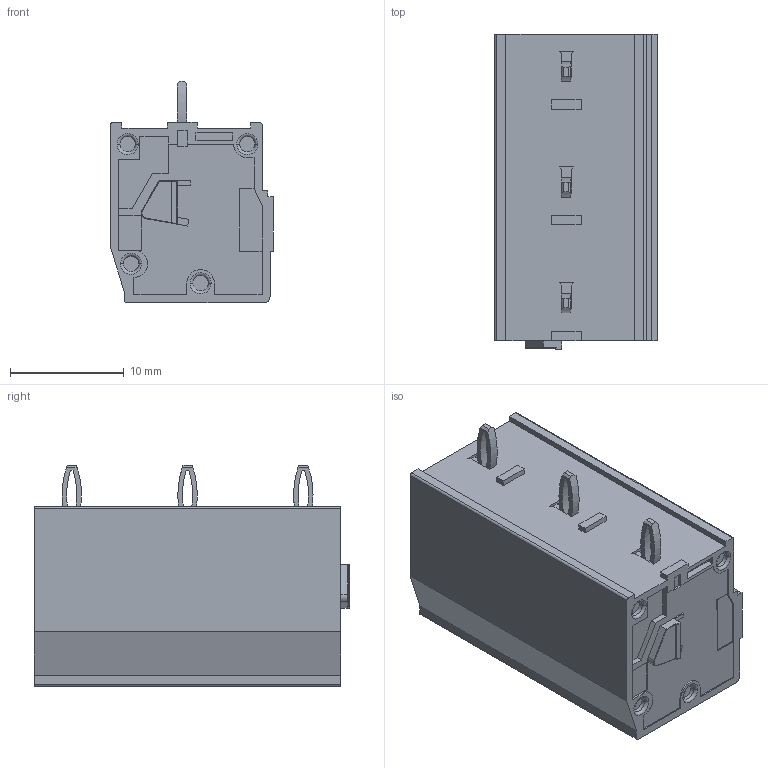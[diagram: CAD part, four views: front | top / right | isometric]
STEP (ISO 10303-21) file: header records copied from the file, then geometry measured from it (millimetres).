
FILE_DESCRIPTION((''),'2;1');
FILE_NAME('3','2019-05-09T',('zhenbing.lai'),(''),'CREO PARAMETRIC BY PTC INC, 2016260','CREO PARAMETRIC BY PTC INC, 2016260','');
FILE_SCHEMA(('CONFIG_CONTROL_DESIGN'));
Length unit declared in the file: millimetre
Products named in the file (1): 3
Bounding box: 14.3 x 27.7 x 19.4 mm (x, y, z)
Volume: 5491.1 mm3; surface area: 2237.7 mm2
Topology: 1 solids, 1 shells, 302 faces, 826 edges, 550 vertices
Faces by surface type: plane 211, cylinder 48, cone 18, torus 17, bspline 8
Entity records: 9875 total; most frequent: CARTESIAN_POINT 2016, ORIENTED_EDGE 1652, DIRECTION 1604, EDGE_CURVE 826, VECTOR 586, LINE 586, VERTEX_POINT 550, AXIS2_PLACEMENT_3D 509
